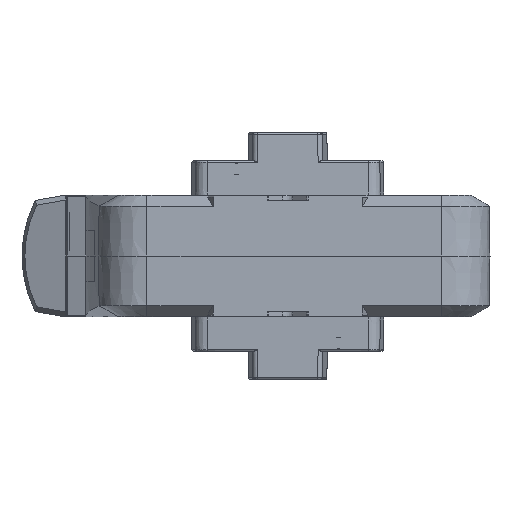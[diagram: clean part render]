
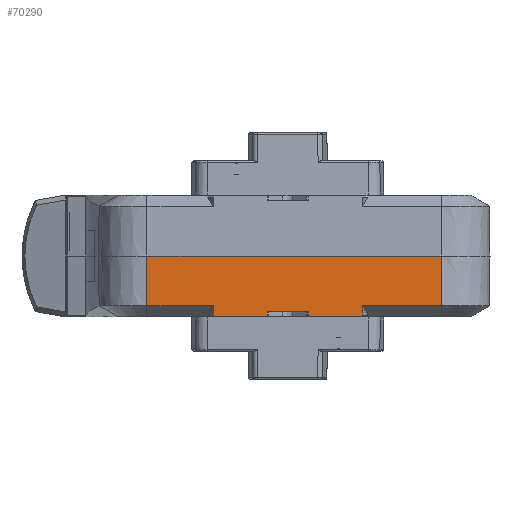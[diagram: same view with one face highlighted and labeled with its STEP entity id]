
A CAD part, left-side view. The second image highlights one B-rep face of the part: STEP entity #70290.
In plain terms, the highlighted planar face has unit normal (-1, 0, -0.009).
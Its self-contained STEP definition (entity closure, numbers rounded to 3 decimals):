
#2609=PLANE('',#74390);
#5814=FACE_OUTER_BOUND('',#9770,.T.);
#9770=EDGE_LOOP('',(#47335,#47336,#47337,#47338,#47339,#47340,#47341,#47342,
#47343,#47344,#47345,#47346,#47347,#47348));
#14131=LINE('',#98037,#21464);
#14666=LINE('',#100843,#21999);
#14667=LINE('',#100845,#22000);
#14668=LINE('',#100847,#22001);
#14669=LINE('',#100849,#22002);
#14670=LINE('',#100851,#22003);
#14671=LINE('',#100853,#22004);
#14672=LINE('',#100855,#22005);
#14673=LINE('',#100856,#22006);
#14674=LINE('',#100858,#22007);
#14675=LINE('',#100860,#22008);
#14676=LINE('',#100862,#22009);
#14677=LINE('',#100864,#22010);
#14678=LINE('',#100865,#22011);
#21464=VECTOR('',#79906,1000.);
#21999=VECTOR('',#80725,1000.);
#22000=VECTOR('',#80726,1000.);
#22001=VECTOR('',#80727,1000.);
#22002=VECTOR('',#80728,1000.);
#22003=VECTOR('',#80729,1000.);
#22004=VECTOR('',#80730,1000.);
#22005=VECTOR('',#80731,1000.);
#22006=VECTOR('',#80732,1000.);
#22007=VECTOR('',#80733,1000.);
#22008=VECTOR('',#80734,1000.);
#22009=VECTOR('',#80735,1000.);
#22010=VECTOR('',#80736,1000.);
#22011=VECTOR('',#80737,1000.);
#29921=VERTEX_POINT('',#98026);
#29923=VERTEX_POINT('',#98030);
#30543=VERTEX_POINT('',#100841);
#30544=VERTEX_POINT('',#100842);
#30545=VERTEX_POINT('',#100844);
#30546=VERTEX_POINT('',#100846);
#30547=VERTEX_POINT('',#100848);
#30548=VERTEX_POINT('',#100850);
#30549=VERTEX_POINT('',#100852);
#30550=VERTEX_POINT('',#100854);
#30551=VERTEX_POINT('',#100857);
#30552=VERTEX_POINT('',#100859);
#30553=VERTEX_POINT('',#100861);
#30554=VERTEX_POINT('',#100863);
#36411=EDGE_CURVE('',#29921,#29923,#14131,.T.);
#37094=EDGE_CURVE('',#30543,#30544,#14666,.T.);
#37095=EDGE_CURVE('',#30543,#30545,#14667,.T.);
#37096=EDGE_CURVE('',#30546,#30545,#14668,.T.);
#37097=EDGE_CURVE('',#30546,#30547,#14669,.T.);
#37098=EDGE_CURVE('',#30547,#30548,#14670,.T.);
#37099=EDGE_CURVE('',#30548,#30549,#14671,.T.);
#37100=EDGE_CURVE('',#30549,#30550,#14672,.T.);
#37101=EDGE_CURVE('',#30550,#29921,#14673,.T.);
#37102=EDGE_CURVE('',#29923,#30551,#14674,.T.);
#37103=EDGE_CURVE('',#30551,#30552,#14675,.T.);
#37104=EDGE_CURVE('',#30552,#30553,#14676,.T.);
#37105=EDGE_CURVE('',#30554,#30553,#14677,.T.);
#37106=EDGE_CURVE('',#30554,#30544,#14678,.T.);
#47335=ORIENTED_EDGE('',*,*,#37094,.F.);
#47336=ORIENTED_EDGE('',*,*,#37095,.T.);
#47337=ORIENTED_EDGE('',*,*,#37096,.F.);
#47338=ORIENTED_EDGE('',*,*,#37097,.T.);
#47339=ORIENTED_EDGE('',*,*,#37098,.T.);
#47340=ORIENTED_EDGE('',*,*,#37099,.T.);
#47341=ORIENTED_EDGE('',*,*,#37100,.T.);
#47342=ORIENTED_EDGE('',*,*,#37101,.T.);
#47343=ORIENTED_EDGE('',*,*,#36411,.T.);
#47344=ORIENTED_EDGE('',*,*,#37102,.T.);
#47345=ORIENTED_EDGE('',*,*,#37103,.T.);
#47346=ORIENTED_EDGE('',*,*,#37104,.T.);
#47347=ORIENTED_EDGE('',*,*,#37105,.F.);
#47348=ORIENTED_EDGE('',*,*,#37106,.T.);
#70290=ADVANCED_FACE('',(#5814),#2609,.T.);
#74390=AXIS2_PLACEMENT_3D('',#100840,#80723,#80724);
#79906=DIRECTION('',(0.009,0.,-1.));
#80723=DIRECTION('center_axis',(-1.,0.,
-0.009));
#80724=DIRECTION('ref_axis',(-0.009,0.,
1.));
#80725=DIRECTION('',(0.,-1.,0.));
#80726=DIRECTION('',(0.009,0.,-1.));
#80727=DIRECTION('',(0.,1.,0.));
#80728=DIRECTION('',(0.009,-0.006,-1.));
#80729=DIRECTION('',(0.006,-0.728,-0.686));
#80730=DIRECTION('',(0.,-1.,0.));
#80731=DIRECTION('',(-0.009,0.,1.));
#80732=DIRECTION('',(0.,-1.,0.));
#80733=DIRECTION('',(0.,-1.,0.));
#80734=DIRECTION('',(-0.006,-0.728,0.686));
#80735=DIRECTION('',(-0.009,-0.006,1.));
#80736=DIRECTION('',(0.,1.,0.));
#80737=DIRECTION('',(-0.009,0.,1.));
#98026=CARTESIAN_POINT('',(-152.801,-8.431,-35.35));
#98030=CARTESIAN_POINT('',(-152.784,-8.431,-37.298));
#98037=CARTESIAN_POINT('',(-152.792,-8.431,-36.324));
#100840=CARTESIAN_POINT('Origin',(-153.,83.,-12.5));
#100841=CARTESIAN_POINT('',(-153.,57.731,-12.5));
#100842=CARTESIAN_POINT('',(-153.,-63.,-12.5));
#100843=CARTESIAN_POINT('',(-153.,83.,-12.5));
#100844=CARTESIAN_POINT('',(-152.821,57.731,-32.984));
#100845=CARTESIAN_POINT('',(-153.,57.731,-12.5));
#100846=CARTESIAN_POINT('',(-152.821,30.587,-32.984));
#100847=CARTESIAN_POINT('',(-152.821,83.,-32.984));
#100848=CARTESIAN_POINT('',(-152.789,30.564,-36.712));
#100849=CARTESIAN_POINT('',(-152.786,30.562,-37.019));
#100850=CARTESIAN_POINT('',(-152.784,29.942,-37.298));
#100851=CARTESIAN_POINT('',(-152.788,30.537,-36.737));
#100852=CARTESIAN_POINT('',(-152.784,8.431,-37.298));
#100853=CARTESIAN_POINT('',(-152.784,8.439,-37.298));
#100854=CARTESIAN_POINT('',(-152.801,8.431,-35.35));
#100855=CARTESIAN_POINT('',(-152.792,8.431,-36.324));
#100856=CARTESIAN_POINT('',(-152.801,83.,-35.35));
#100857=CARTESIAN_POINT('',(-152.784,-29.942,-37.298));
#100858=CARTESIAN_POINT('',(-152.784,-30.579,-37.298));
#100859=CARTESIAN_POINT('',(-152.789,-30.564,-36.712));
#100860=CARTESIAN_POINT('',(-153.227,-83.82,13.482));
#100861=CARTESIAN_POINT('',(-152.821,-30.587,-32.984));
#100862=CARTESIAN_POINT('',(-152.786,-30.562,-37.019));
#100863=CARTESIAN_POINT('',(-152.821,-63.,-32.984));
#100864=CARTESIAN_POINT('',(-152.821,83.,-32.984));
#100865=CARTESIAN_POINT('',(-153.,-63.,-12.5));
